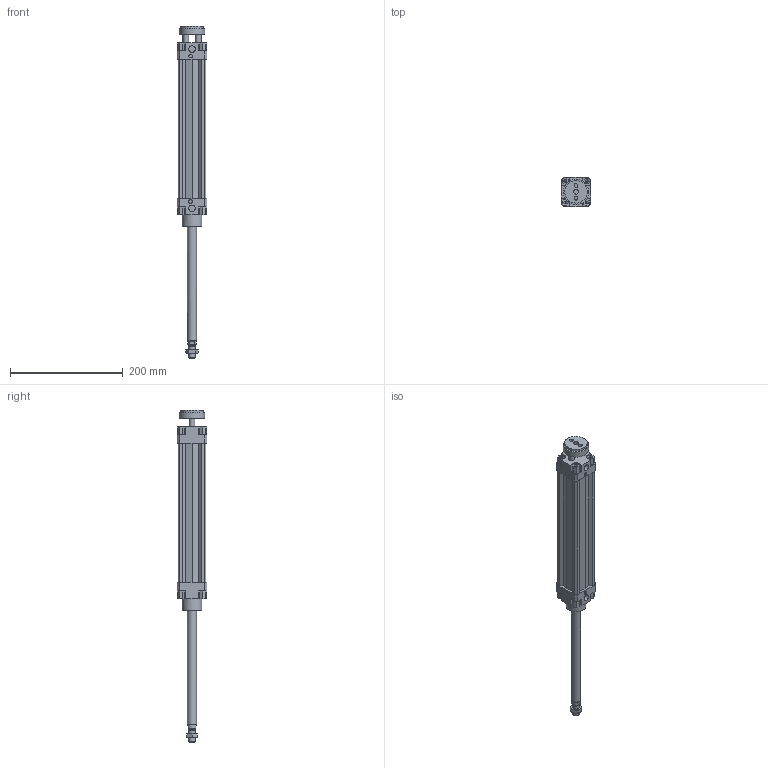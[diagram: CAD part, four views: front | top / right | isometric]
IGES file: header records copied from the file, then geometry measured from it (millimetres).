
Global section: file name: 132#_040_0200_02; native system: Autodesk Inventor 2014; preprocessor: unknown; author: A. Manieri; date: 20161006.154844; units: millimetre
Bounding box: 52 x 52 x 589 mm (x, y, z)
Volume: 491090.6 mm3; surface area: 160367.7 mm2
Topology: 3 solids, 3 shells, 220 faces, 590 edges, 398 vertices
Faces by surface type: bspline 220
